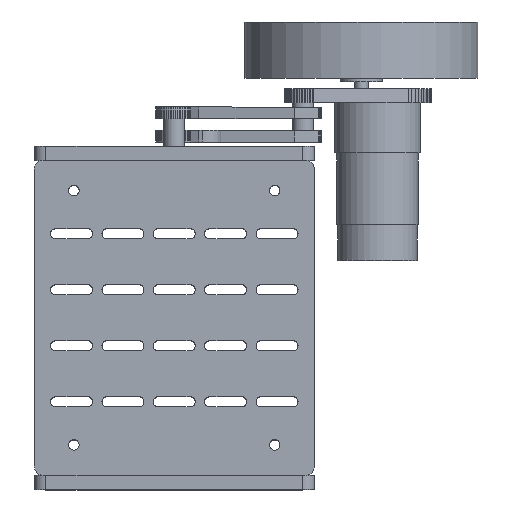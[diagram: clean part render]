
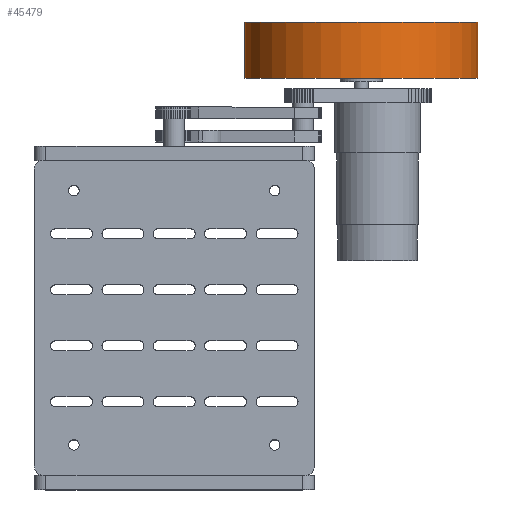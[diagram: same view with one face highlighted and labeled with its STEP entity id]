
A CAD part, top view. The second image highlights one B-rep face of the part: STEP entity #45479.
In plain terms, the highlighted cylindrical face has radius 50 mm (diameter 100 mm), a full revolution.
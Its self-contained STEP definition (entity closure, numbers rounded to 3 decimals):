
#45479 = ADVANCED_FACE('',(#45480),#45493,.T.);
#45480 = FACE_BOUND('',#45481,.T.);
#45481 = EDGE_LOOP('',(#45482,#45516,#45539,#45566));
#45482 = ORIENTED_EDGE('',*,*,#45483,.F.);
#45483 = EDGE_CURVE('',#45484,#45484,#45486,.T.);
#45484 = VERTEX_POINT('',#45485);
#45485 = CARTESIAN_POINT('',(80.,59.5,-45.263));
#45486 = SURFACE_CURVE('',#45487,(#45492,#45504),.PCURVE_S1.);
#45487 = CIRCLE('',#45488,50.);
#45488 = AXIS2_PLACEMENT_3D('',#45489,#45490,#45491);
#45489 = CARTESIAN_POINT('',(80.,59.5,-95.263));
#45490 = DIRECTION('',(0.,1.,0.));
#45491 = DIRECTION('',(0.,-0.,1.));
#45492 = PCURVE('',#45493,#45498);
#45493 = CYLINDRICAL_SURFACE('',#45494,50.);
#45494 = AXIS2_PLACEMENT_3D('',#45495,#45496,#45497);
#45495 = CARTESIAN_POINT('',(80.,35.5,-95.263));
#45496 = DIRECTION('',(0.,1.,0.));
#45497 = DIRECTION('',(0.,-0.,1.));
#45498 = DEFINITIONAL_REPRESENTATION('',(#45499),#45503);
#45499 = LINE('',#45500,#45501);
#45500 = CARTESIAN_POINT('',(0.,24.));
#45501 = VECTOR('',#45502,1.);
#45502 = DIRECTION('',(1.,0.));
#45503 = ( GEOMETRIC_REPRESENTATION_CONTEXT(2) 
PARAMETRIC_REPRESENTATION_CONTEXT() REPRESENTATION_CONTEXT('2D SPACE',''
  ) );
#45504 = PCURVE('',#45505,#45510);
#45505 = PLANE('',#45506);
#45506 = AXIS2_PLACEMENT_3D('',#45507,#45508,#45509);
#45507 = CARTESIAN_POINT('',(80.,59.5,-95.263));
#45508 = DIRECTION('',(0.,1.,0.));
#45509 = DIRECTION('',(0.,-0.,1.));
#45510 = DEFINITIONAL_REPRESENTATION('',(#45511),#45515);
#45511 = CIRCLE('',#45512,50.);
#45512 = AXIS2_PLACEMENT_2D('',#45513,#45514);
#45513 = CARTESIAN_POINT('',(0.,0.));
#45514 = DIRECTION('',(1.,0.));
#45515 = ( GEOMETRIC_REPRESENTATION_CONTEXT(2) 
PARAMETRIC_REPRESENTATION_CONTEXT() REPRESENTATION_CONTEXT('2D SPACE',''
  ) );
#45516 = ORIENTED_EDGE('',*,*,#45517,.F.);
#45517 = EDGE_CURVE('',#45518,#45484,#45520,.T.);
#45518 = VERTEX_POINT('',#45519);
#45519 = CARTESIAN_POINT('',(80.,35.5,-45.263));
#45520 = SEAM_CURVE('',#45521,(#45525,#45532),.PCURVE_S1.);
#45521 = LINE('',#45522,#45523);
#45522 = CARTESIAN_POINT('',(80.,35.5,-45.263));
#45523 = VECTOR('',#45524,1.);
#45524 = DIRECTION('',(0.,1.,0.));
#45525 = PCURVE('',#45493,#45526);
#45526 = DEFINITIONAL_REPRESENTATION('',(#45527),#45531);
#45527 = LINE('',#45528,#45529);
#45528 = CARTESIAN_POINT('',(6.283,-0.));
#45529 = VECTOR('',#45530,1.);
#45530 = DIRECTION('',(0.,1.));
#45531 = ( GEOMETRIC_REPRESENTATION_CONTEXT(2) 
PARAMETRIC_REPRESENTATION_CONTEXT() REPRESENTATION_CONTEXT('2D SPACE',''
  ) );
#45532 = PCURVE('',#45493,#45533);
#45533 = DEFINITIONAL_REPRESENTATION('',(#45534),#45538);
#45534 = LINE('',#45535,#45536);
#45535 = CARTESIAN_POINT('',(0.,-0.));
#45536 = VECTOR('',#45537,1.);
#45537 = DIRECTION('',(0.,1.));
#45538 = ( GEOMETRIC_REPRESENTATION_CONTEXT(2) 
PARAMETRIC_REPRESENTATION_CONTEXT() REPRESENTATION_CONTEXT('2D SPACE',''
  ) );
#45539 = ORIENTED_EDGE('',*,*,#45540,.T.);
#45540 = EDGE_CURVE('',#45518,#45518,#45541,.T.);
#45541 = SURFACE_CURVE('',#45542,(#45547,#45554),.PCURVE_S1.);
#45542 = CIRCLE('',#45543,50.);
#45543 = AXIS2_PLACEMENT_3D('',#45544,#45545,#45546);
#45544 = CARTESIAN_POINT('',(80.,35.5,-95.263));
#45545 = DIRECTION('',(0.,1.,0.));
#45546 = DIRECTION('',(0.,-0.,1.));
#45547 = PCURVE('',#45493,#45548);
#45548 = DEFINITIONAL_REPRESENTATION('',(#45549),#45553);
#45549 = LINE('',#45550,#45551);
#45550 = CARTESIAN_POINT('',(0.,0.));
#45551 = VECTOR('',#45552,1.);
#45552 = DIRECTION('',(1.,0.));
#45553 = ( GEOMETRIC_REPRESENTATION_CONTEXT(2) 
PARAMETRIC_REPRESENTATION_CONTEXT() REPRESENTATION_CONTEXT('2D SPACE',''
  ) );
#45554 = PCURVE('',#45555,#45560);
#45555 = PLANE('',#45556);
#45556 = AXIS2_PLACEMENT_3D('',#45557,#45558,#45559);
#45557 = CARTESIAN_POINT('',(80.,35.5,-95.263));
#45558 = DIRECTION('',(0.,1.,0.));
#45559 = DIRECTION('',(0.,-0.,1.));
#45560 = DEFINITIONAL_REPRESENTATION('',(#45561),#45565);
#45561 = CIRCLE('',#45562,50.);
#45562 = AXIS2_PLACEMENT_2D('',#45563,#45564);
#45563 = CARTESIAN_POINT('',(0.,0.));
#45564 = DIRECTION('',(1.,0.));
#45565 = ( GEOMETRIC_REPRESENTATION_CONTEXT(2) 
PARAMETRIC_REPRESENTATION_CONTEXT() REPRESENTATION_CONTEXT('2D SPACE',''
  ) );
#45566 = ORIENTED_EDGE('',*,*,#45517,.T.);
